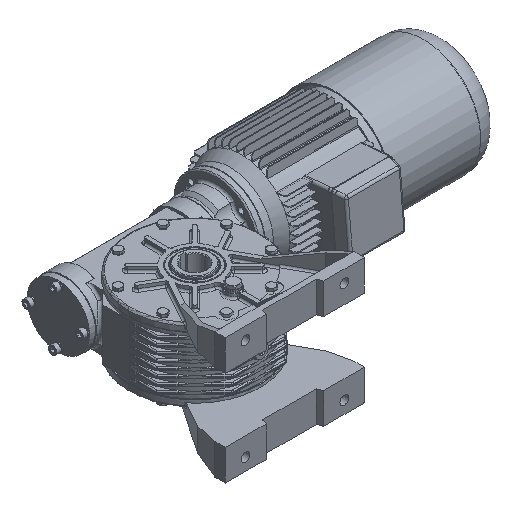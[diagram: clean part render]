
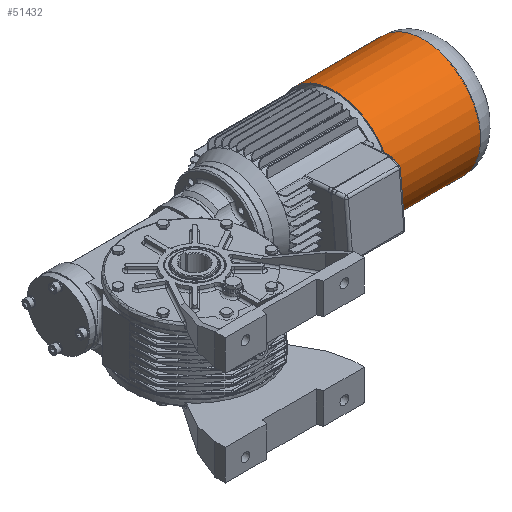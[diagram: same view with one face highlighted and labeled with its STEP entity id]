
A CAD part, isometric view. The second image highlights one B-rep face of the part: STEP entity #51432.
In plain terms, the highlighted cylindrical face has radius 92.5 mm (diameter 185 mm), a full revolution.
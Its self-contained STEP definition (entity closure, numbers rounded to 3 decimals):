
#51289=CARTESIAN_POINT('',(375.0,92.5,0.0));
#51290=VERTEX_POINT('',#51289);
#51291=CARTESIAN_POINT('',(375.0,0.0,0.0));
#51292=DIRECTION('',(1.0,0.0,0.0));
#51293=DIRECTION('',(0.0,1.0,0.0));
#51294=AXIS2_PLACEMENT_3D('',#51291,#51292,#51293);
#51295=CIRCLE('',#51294,92.5);
#51296=EDGE_CURVE('',#51290,#51290,#51295,.T.);
#51406=CARTESIAN_POINT('',(231.0,92.5,0.0));
#51407=VERTEX_POINT('',#51406);
#51408=CARTESIAN_POINT('',(231.0,0.0,0.0));
#51409=DIRECTION('',(1.0,0.0,0.0));
#51410=DIRECTION('',(0.0,1.0,0.0));
#51411=AXIS2_PLACEMENT_3D('',#51408,#51409,#51410);
#51412=CIRCLE('',#51411,92.5);
#51413=EDGE_CURVE('',#51407,#51407,#51412,.T.);
#51421=CARTESIAN_POINT('',(303.0,0.0,0.0));
#51422=DIRECTION('',(1.0,0.0,0.0));
#51423=DIRECTION('',(0.0,1.0,0.0));
#51424=AXIS2_PLACEMENT_3D('',#51421,#51422,#51423);
#51425=CYLINDRICAL_SURFACE('',#51424,92.5);
#51426=ORIENTED_EDGE('',*,*,#51296,.F.);
#51427=EDGE_LOOP('',(#51426));
#51428=FACE_OUTER_BOUND('',#51427,.T.);
#51429=ORIENTED_EDGE('',*,*,#51413,.T.);
#51430=EDGE_LOOP('',(#51429));
#51431=FACE_BOUND('',#51430,.T.);
#51432=ADVANCED_FACE('',(#51428,#51431),#51425,.T.);
